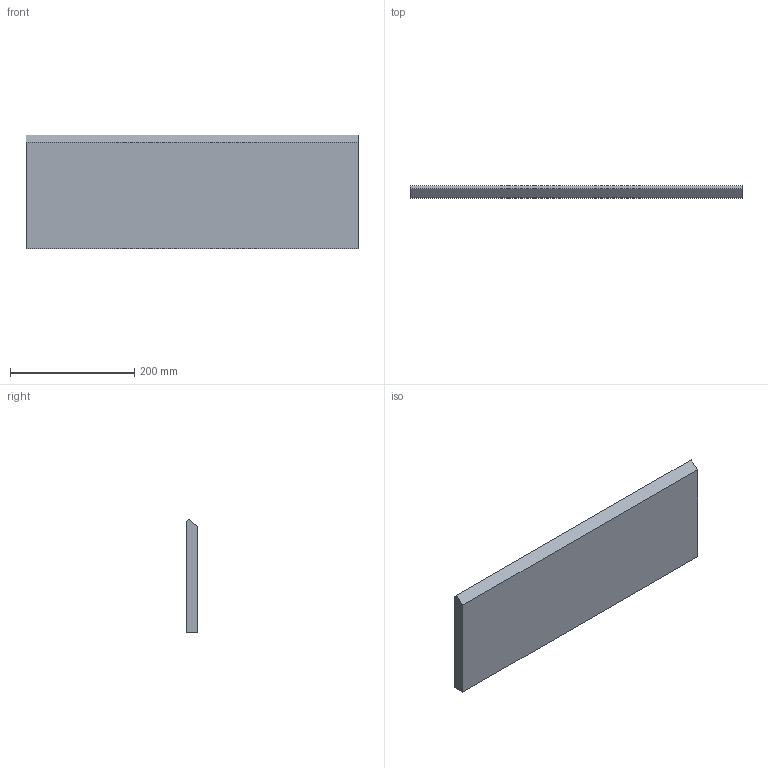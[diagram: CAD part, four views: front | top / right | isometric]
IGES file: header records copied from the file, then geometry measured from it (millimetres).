
Start section:  PTC IGES file: C:\Documents and Settings\Brad\Desktop\IGES\front_corner _panel.igs
Global section: file name: C:\Documents and Settings\Brad\Desktop\IGES\front_corner_panel.igs; native system: Brad by Parametric Technology Corporation; preprocessor: 2003250; author: Unknown; organization: PTC; date: 040521.142625; units: inch
Bounding box: 533.4 x 19.05 x 183.04 mm (x, y, z)
Volume: 1806673.8 mm3; surface area: 216773.8 mm2
Topology: 1 solids, 1 shells, 7 faces, 15 edges, 10 vertices
Faces by surface type: bspline 7
